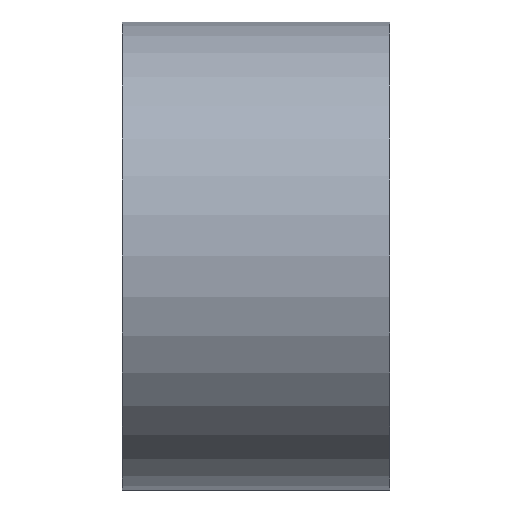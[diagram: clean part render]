
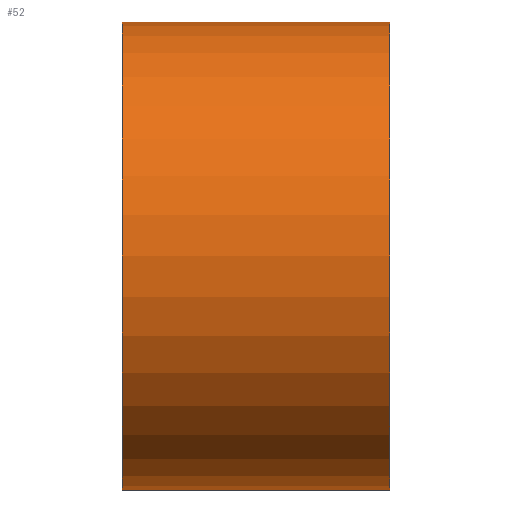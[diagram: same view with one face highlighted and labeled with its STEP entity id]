
A CAD part, front view. The second image highlights one B-rep face of the part: STEP entity #52.
In plain terms, the highlighted cylindrical face has radius 1.75 mm (diameter 3.5 mm), a full revolution.
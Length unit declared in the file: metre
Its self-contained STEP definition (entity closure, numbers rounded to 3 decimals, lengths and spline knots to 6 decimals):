
#14=ORIENTED_EDGE('',*,*,#22,.F.);
#15=ORIENTED_EDGE('',*,*,#23,.T.);
#22=EDGE_CURVE('',#26,#26,#30,.T.);
#23=EDGE_CURVE('',#27,#27,#31,.T.);
#26=VERTEX_POINT('',#98);
#27=VERTEX_POINT('',#100);
#30=CIRCLE('',#70,0.00175);
#31=CIRCLE('',#71,0.00175);
#34=EDGE_LOOP('',(#14));
#35=EDGE_LOOP('',(#15));
#42=FACE_BOUND('',#34,.T.);
#43=FACE_BOUND('',#35,.T.);
#50=CYLINDRICAL_SURFACE('',#69,0.00175);
#52=ADVANCED_FACE('',(#42,#43),#50,.T.);
#69=AXIS2_PLACEMENT_3D('',#96,#79,#80);
#70=AXIS2_PLACEMENT_3D('',#97,#81,#82);
#71=AXIS2_PLACEMENT_3D('',#99,#83,#84);
#79=DIRECTION('',(1.,0.,0.));
#80=DIRECTION('',(0.,0.,-1.));
#81=DIRECTION('',(-1.,0.,0.));
#82=DIRECTION('',(0.,0.,1.));
#83=DIRECTION('',(-1.,0.,0.));
#84=DIRECTION('',(0.,0.,1.));
#96=CARTESIAN_POINT('',(-0.0575,0.0285,-0.0135));
#97=CARTESIAN_POINT('',(-0.0575,0.0285,-0.0135));
#98=CARTESIAN_POINT('',(-0.0575,0.0285,-0.01175));
#99=CARTESIAN_POINT('',(-0.0555,0.0285,-0.0135));
#100=CARTESIAN_POINT('',(-0.0555,0.0285,-0.01175));
